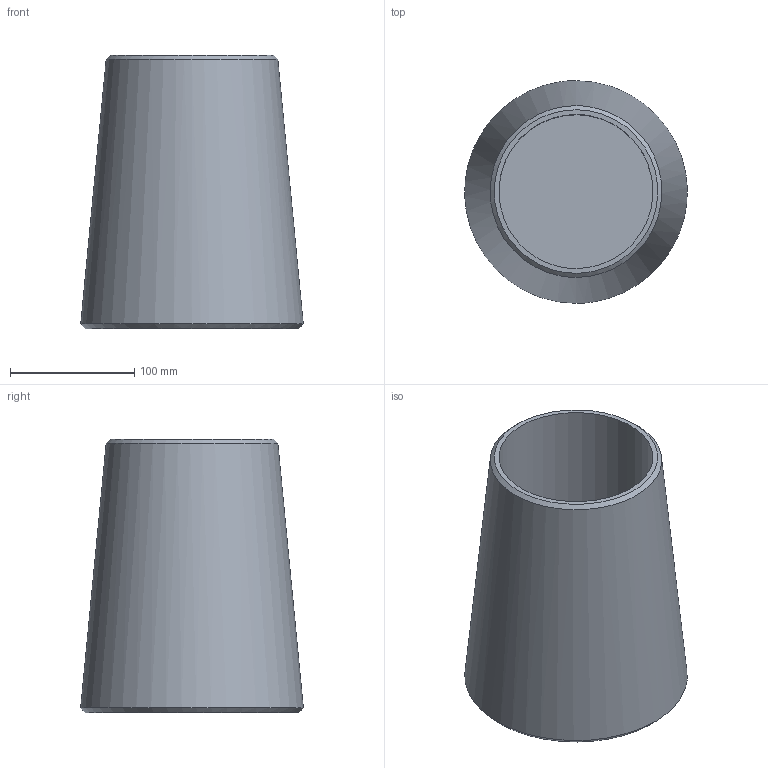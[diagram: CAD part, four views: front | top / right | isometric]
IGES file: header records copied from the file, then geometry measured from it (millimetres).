
Global section: file name: 520-120-KMU; native system: Autodesk Inventor 2016; preprocessor: unknown; author: BAYR; date: 20200618.123905; units: millimetre
Bounding box: 179.1 x 179.23 x 220 mm (x, y, z)
Volume: 2446333.9 mm3; surface area: 210808.9 mm2
Topology: 1 solids, 1 shells, 7 faces, 14 edges, 10 vertices
Faces by surface type: bspline 7
